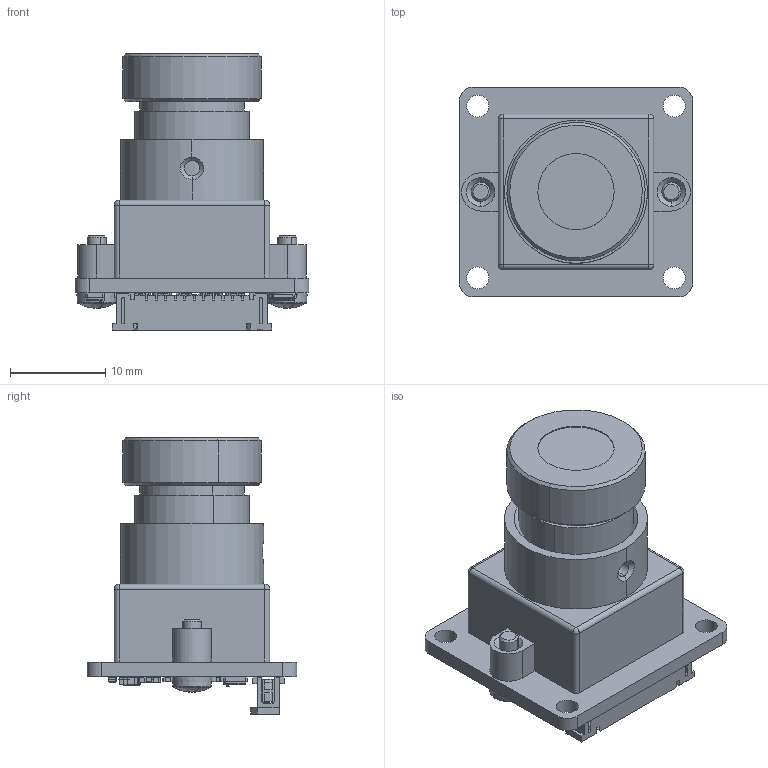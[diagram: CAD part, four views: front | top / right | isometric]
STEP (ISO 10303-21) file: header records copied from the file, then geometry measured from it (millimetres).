
FILE_DESCRIPTION((''),'2;1');
FILE_NAME('DS-CIMX327-22-80_LIGHT','2025-03-13T',('admin'),(''),'CREO PARAMETRIC BY PTC INC, 2017300','CREO PARAMETRIC BY PTC INC, 2017300','');
FILE_SCHEMA(('AUTOMOTIVE_DESIGN { 1 0 10303 214 1 1 1 1 }'));
Length unit declared in the file: millimetre
Products named in the file (1): DS-CIMX327-22-80_LIGHT
Bounding box: 24.5 x 22 x 28.96 mm (x, y, z)
Surface area: 3557.3 mm2 (no closed solid volume)
Topology: 0 solids, 244 shells, 594 faces, 2425 edges, 2066 vertices
Faces by surface type: plane 451, cylinder 77, bspline 36, cone 18, torus 8, sphere 4
Entity records: 31066 total; most frequent: CARTESIAN_POINT 7807, DIRECTION 3770, ORIENTED_EDGE 2981, EDGE_CURVE 2421, VERTEX_POINT 2066, VECTOR 1986, LINE 1986, AXIS2_PLACEMENT_3D 892
